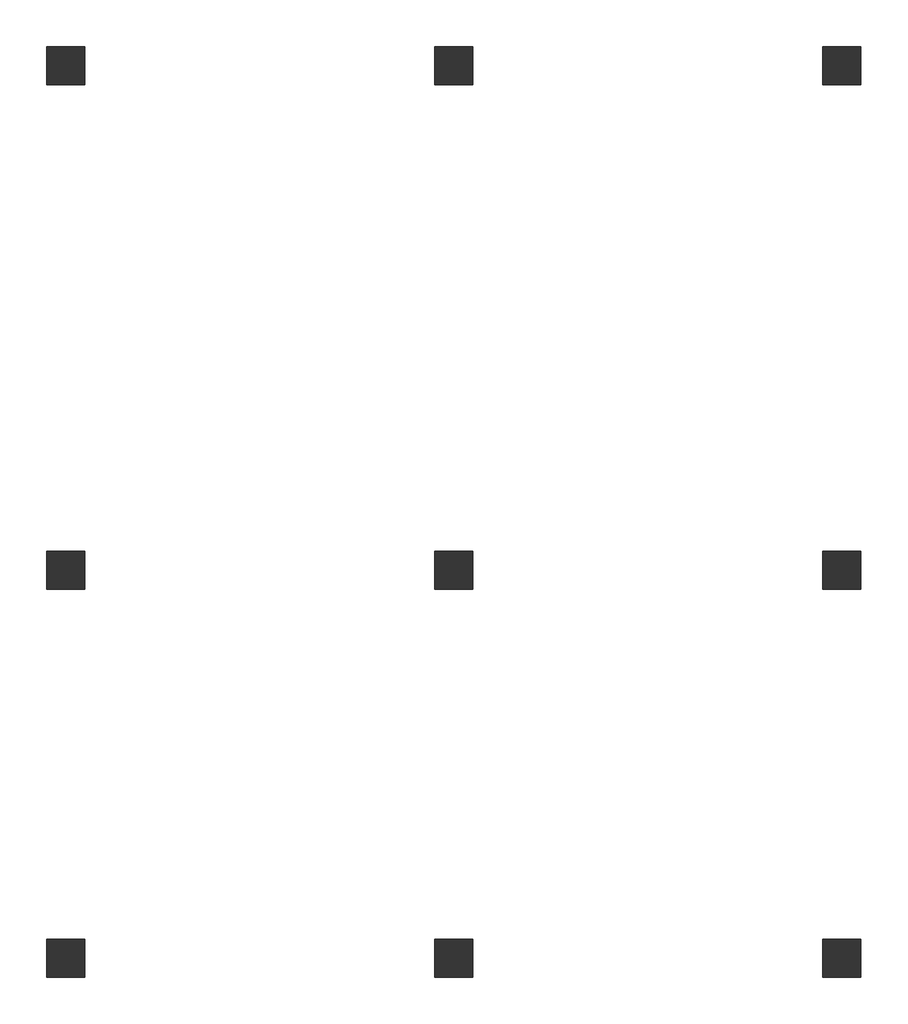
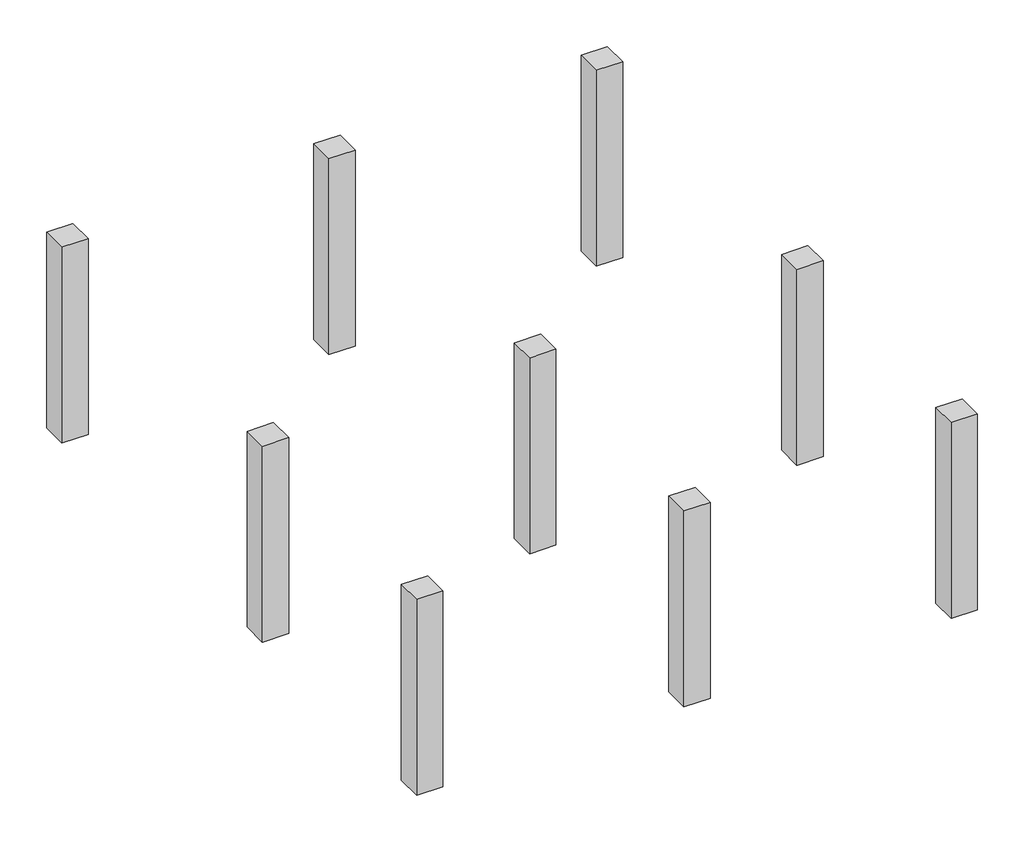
# One storey: 9 columns.
"""IFC4 building model written with IfcOpenShell, lengths in millimetres."""

from ifc_helpers import new_model, si_unit, origin, place, context, project, spatial, transform, mapped, element, save
from components import m_concrete_square_column_600_x_600mm_4235e9f2

model = new_model("IFC4")

# Units and contexts
model_context = context("Model", 3, world=origin())
ifc_project = project(units=[si_unit("LENGTHUNIT", "METRE", prefix="MILLI")], contexts=[model_context])

# Site, building, storey
site = spatial("IfcSite", under=ifc_project)
building = spatial("IfcBuilding", under=site)
storey = spatial("IfcBuildingStorey", under=building, Name="T.O.F", Elevation=-1676.4)

# Columns
placement = place(None, origin())
m_concrete_square_column_600_x_600mm_shape = m_concrete_square_column_600_x_600mm_4235e9f2(model_context)
element("IfcColumn", 1, ObjectType="M_Concrete-Square-Column : 600 x 600mm", at=placement, inside=storey, context=model_context, shape_type="MappedRepresentation", body=[
    mapped(m_concrete_square_column_600_x_600mm_shape, transform((-13941.0467956, -2772.3595363, 0.0), x_axis=(-1.0, 0.0, 0.0), y_axis=(0.0, -1.0, 0.0), z_axis=(0.0, 0.0, 1.0))),
])
element("IfcColumn", 2, ObjectType="M_Concrete-Square-Column : 600 x 600mm", at=placement, inside=storey, context=model_context, shape_type="MappedRepresentation", body=[
    mapped(m_concrete_square_column_600_x_600mm_shape, transform((-13941.0467956, 3323.6404637, 0.0), x_axis=(-1.0, 0.0, 0.0), y_axis=(0.0, -1.0, 0.0), z_axis=(0.0, 0.0, 1.0))),
])
element("IfcColumn", 3, ObjectType="M_Concrete-Square-Column : 600 x 600mm", at=placement, inside=storey, context=model_context, shape_type="MappedRepresentation", body=[
    mapped(m_concrete_square_column_600_x_600mm_shape, transform((-13941.0467956, 11248.6404637, 0.0), x_axis=(-1.0, 0.0, 0.0), y_axis=(0.0, -1.0, 0.0), z_axis=(0.0, 0.0, 1.0))),
])
element("IfcColumn", 4, ObjectType="M_Concrete-Square-Column : 600 x 600mm", at=placement, inside=storey, context=model_context, shape_type="MappedRepresentation", body=[
    mapped(m_concrete_square_column_600_x_600mm_shape, transform((-20037.0467956, -2772.3595363, 0.0), x_axis=(-1.0, 0.0, 0.0), y_axis=(0.0, -1.0, 0.0), z_axis=(0.0, 0.0, 1.0))),
])
element("IfcColumn", 5, ObjectType="M_Concrete-Square-Column : 600 x 600mm", at=placement, inside=storey, context=model_context, shape_type="MappedRepresentation", body=[
    mapped(m_concrete_square_column_600_x_600mm_shape, transform((-20037.0467956, 3323.6404637, 0.0), x_axis=(-1.0, 0.0, 0.0), y_axis=(0.0, -1.0, 0.0), z_axis=(0.0, 0.0, 1.0))),
])
element("IfcColumn", 6, ObjectType="M_Concrete-Square-Column : 600 x 600mm", at=placement, inside=storey, context=model_context, shape_type="MappedRepresentation", body=[
    mapped(m_concrete_square_column_600_x_600mm_shape, transform((-20037.0467956, 11248.6404637, 0.0), x_axis=(-1.0, 0.0, 0.0), y_axis=(0.0, -1.0, 0.0), z_axis=(0.0, 0.0, 1.0))),
])
element("IfcColumn", 7, ObjectType="M_Concrete-Square-Column : 600 x 600mm", at=placement, inside=storey, context=model_context, shape_type="MappedRepresentation", body=[
    mapped(m_concrete_square_column_600_x_600mm_shape, transform((-26133.0467956, -2772.3595363, 0.0), x_axis=(-1.0, 0.0, 0.0), y_axis=(0.0, -1.0, 0.0), z_axis=(0.0, 0.0, 1.0))),
])
element("IfcColumn", 8, ObjectType="M_Concrete-Square-Column : 600 x 600mm", at=placement, inside=storey, context=model_context, shape_type="MappedRepresentation", body=[
    mapped(m_concrete_square_column_600_x_600mm_shape, transform((-26133.0467956, 3323.6404637, 0.0), x_axis=(-1.0, 0.0, 0.0), y_axis=(0.0, -1.0, 0.0), z_axis=(0.0, 0.0, 1.0))),
])
element("IfcColumn", 9, ObjectType="M_Concrete-Square-Column : 600 x 600mm", at=placement, inside=storey, context=model_context, shape_type="MappedRepresentation", body=[
    mapped(m_concrete_square_column_600_x_600mm_shape, transform((-26133.0467956, 11248.6404637, 0.0), x_axis=(-1.0, 0.0, 0.0), y_axis=(0.0, -1.0, 0.0), z_axis=(0.0, 0.0, 1.0))),
])

save(model, "model.ifc")
